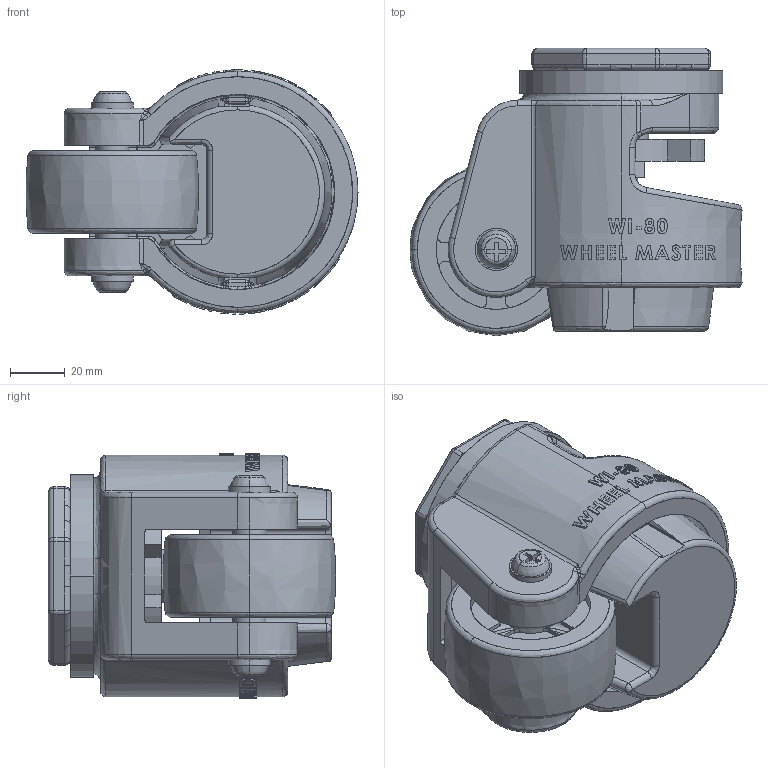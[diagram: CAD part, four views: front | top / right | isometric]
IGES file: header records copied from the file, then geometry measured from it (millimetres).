
Start section: SolidWorks IGES file using analytic representation for surfaces
Global section: file name: 0HH:\辫屈霖累诀\快老墨促肺弊(NEW)\权其捞瘤诀肺靛侩3D\WI80S.IGS; native system: SolidWorks 2010; preprocessor: SolidWorks 2010; author: Administrator; date: 110129.141242; units: millimetre
Bounding box: 120.91 x 104.66 x 89 mm (x, y, z)
Surface area: 100795.7 mm2 (no closed solid volume)
Topology: 0 solids, 0 shells, 1043 faces, 12684 edges, 12656 vertices
Faces by surface type: bspline 753, revolution 290
